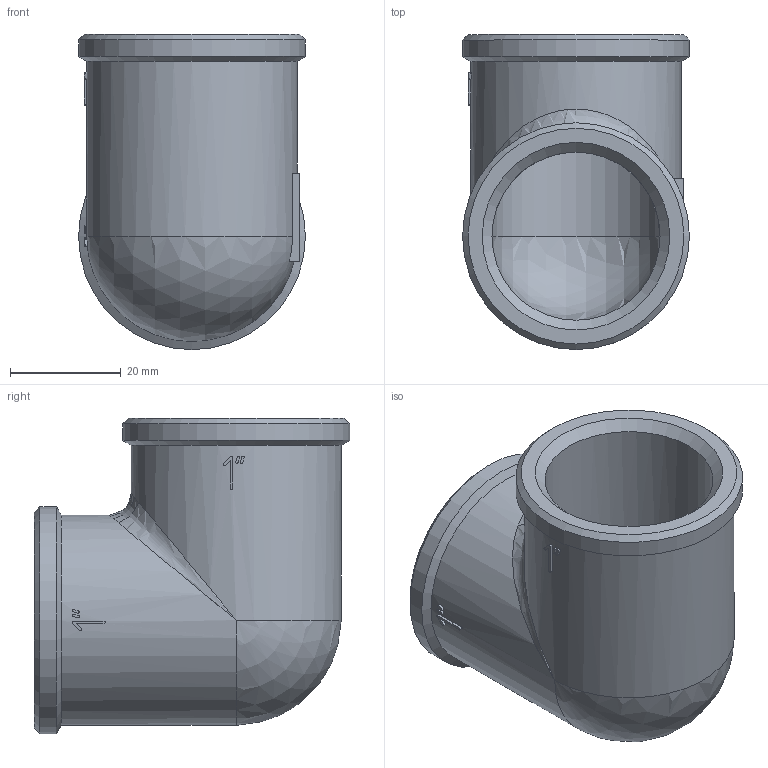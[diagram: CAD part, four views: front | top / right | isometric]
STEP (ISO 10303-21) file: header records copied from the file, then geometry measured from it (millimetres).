
FILE_DESCRIPTION(('STEP AP203'), '1');
FILE_NAME('ÂÐ.752213.003 - VTr.090.N.0006 - Ôèò. ðåçüá. óãîë', '', ('UNSPECIFIED'), ('UNSPECIFIED'), 'C3D Converter', 'C3D Toolkit', '');
FILE_SCHEMA(('CONFIG_CONTROL_DESIGN'));
Length unit declared in the file: millimetre
Products named in the file (1): ВР.752213.003
Bounding box: 41 x 57 x 57 mm (x, y, z)
Volume: 30323.1 mm3; surface area: 16436.8 mm2
Topology: 1 solids, 1 shells, 120 faces, 327 edges, 213 vertices
Faces by surface type: extrusion 54, plane 43, cylinder 14, cone 6, sphere 2, bspline 1
Full cylindrical faces by diameter (mm): 30.4 x2, 38 x2, 41 x2
Entity records: 5980 total; most frequent: CARTESIAN_POINT 2343, ORIENTED_EDGE 622, DIRECTION 366, EDGE_CURVE 311, VERTEX_POINT 213, VECTOR 182, B_SPLINE_CURVE_WITH_KNOTS 169, EDGE_LOOP 142
